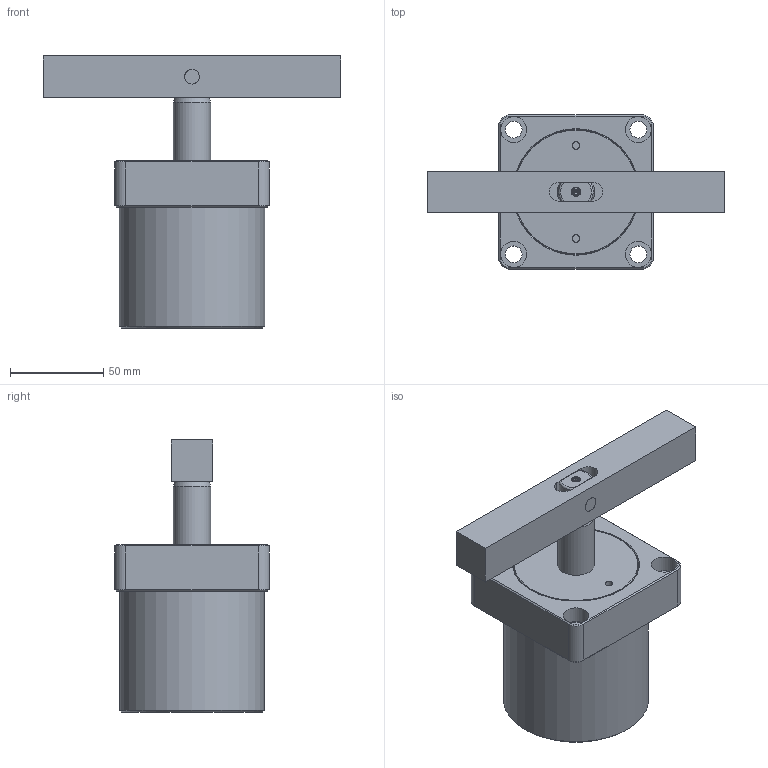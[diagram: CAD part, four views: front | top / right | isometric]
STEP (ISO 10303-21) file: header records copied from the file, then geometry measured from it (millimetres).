
FILE_DESCRIPTION(/* description */ ('Unknown'),/* implementation_level */ '2;1');
FILE_NAME(/* name */ 'ASC-FA63D-B',/* time_stamp */ '2019-05-20T10:29:02+08:00',/* author */ ('Unknown'),/* organization */ ('Unknown'),/* preprocessor_version */ 'ST-DEVELOPER v16.7',/* originating_system */ 'DEX',/* authorisation */ $);
FILE_SCHEMA (('AUTOMOTIVE_DESIGN {1 0 10303 214 3 1 1}'));
Length unit declared in the file: millimetre
Products named in the file (5): ASC-FA63D-B; ASC-FA63D-CYLINDER; ASC-6302-D-AXLE CENTRE; ASC-63D-B; ASC-6302-D-FIXED PIN
Assembly tree (4 placements, depth 2):
  ASC-FA63D-B
    ASC-FA63D-CYLINDER
    ASC-6302-D-AXLE CENTRE
    ASC-63D-B
    ASC-6302-D-FIXED PIN
Bounding box: 160 x 83 x 146.2 mm (x, y, z)
Volume: 464577.9 mm3; surface area: 88120.5 mm2
Topology: 4 solids, 4 shells, 114 faces, 239 edges, 148 vertices
Faces by surface type: plane 51, cylinder 29, cone 18, bspline 12, torus 4
Full cylindrical faces by diameter (mm): 4.1 x2, 8 x4, 9 x4, 9.147 x2, 14 x4, 20 x2, 63 x2, 78 x1
Entity records: 3401 total; most frequent: CARTESIAN_POINT 651, DIRECTION 472, ORIENTED_EDGE 382, AXIS2_PLACEMENT_3D 196, EDGE_CURVE 191, EDGE_LOOP 178, FACE_BOUND 178, VERTEX_POINT 133
